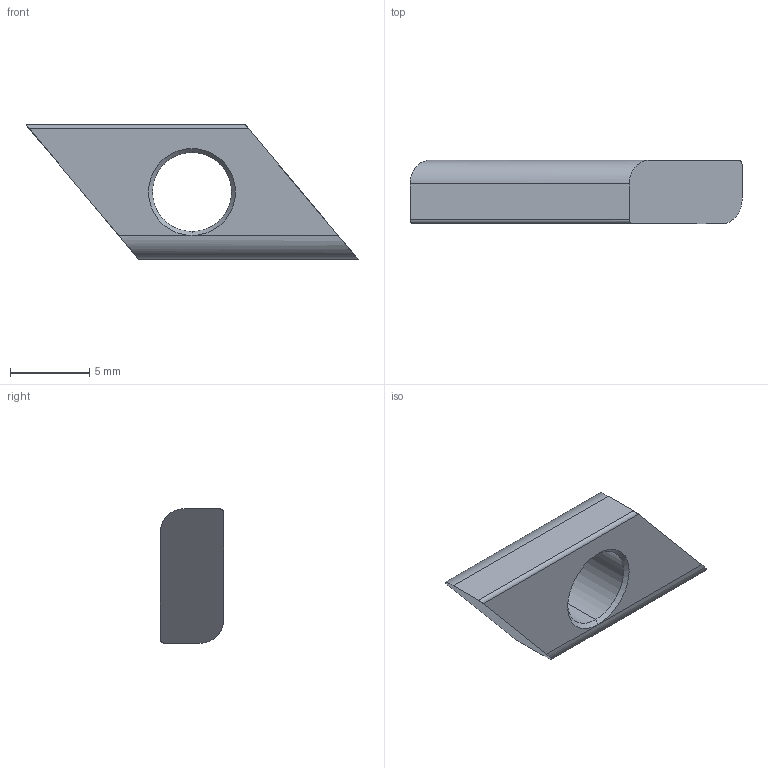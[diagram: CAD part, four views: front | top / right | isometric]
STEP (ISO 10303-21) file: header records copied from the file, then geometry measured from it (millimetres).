
FILE_DESCRIPTION (( 'STEP AP203' ), '1' );
FILE_NAME ('5192.STEP', '2017-04-13T17:11:07', ( '' ), ( '' ), 'SwSTEP 2.0', 'SolidWorks 2014', '' );
FILE_SCHEMA (( 'CONFIG_CONTROL_DESIGN' ));
Length unit declared in the file: millimetre
Products named in the file (1): 5192
Bounding box: 21 x 4 x 8.5 mm (x, y, z)
Volume: 378.2 mm3; surface area: 431.2 mm2
Topology: 1 solids, 1 shells, 16 faces, 40 edges, 24 vertices
Faces by surface type: cylinder 6, plane 6, cone 4
Entity records: 549 total; most frequent: CARTESIAN_POINT 105, ORIENTED_EDGE 80, DIRECTION 74, EDGE_CURVE 40, AXIS2_PLACEMENT_3D 25, VERTEX_POINT 24, VECTOR 24, LINE 24
